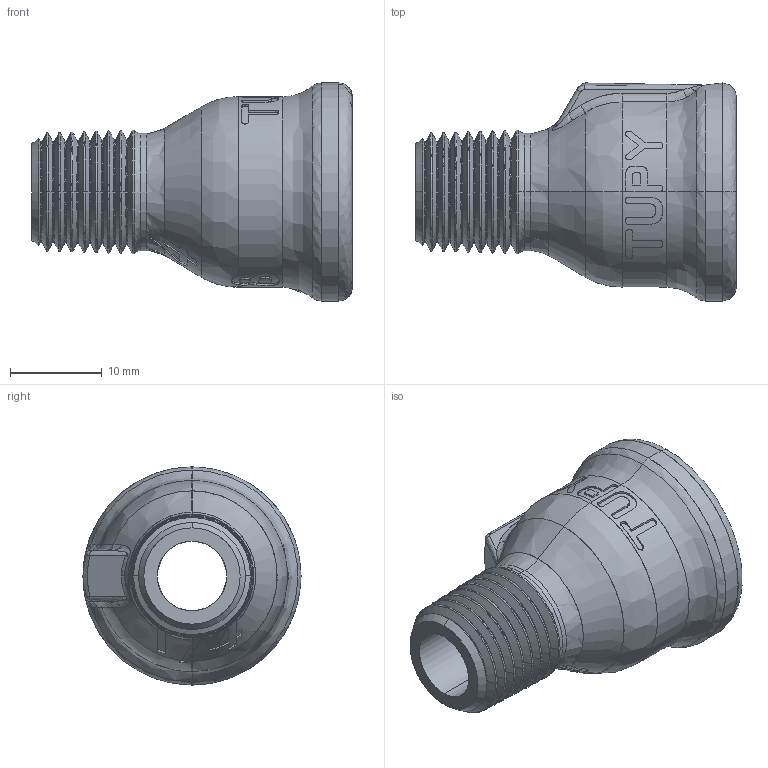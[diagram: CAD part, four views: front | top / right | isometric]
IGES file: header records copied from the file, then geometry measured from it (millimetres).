
Start section: SolidWorks IGES file using analytic representation for surfaces
Global section: file name: C:\Users\Joel Rosa\Desktop\Tubulação\12-35-OK\12-35-023.IGS; native system: SolidWorks 2011; preprocessor: SolidWorks 2011; author: Joel Rosa; date: 121209.030503; units: millimetre
Bounding box: 35 x 23.8 x 23.8 mm (x, y, z)
Surface area: 4248.9 mm2 (no closed solid volume)
Topology: 0 solids, 0 shells, 362 faces, 3500 edges, 3500 vertices
Faces by surface type: bspline 255, revolution 107
